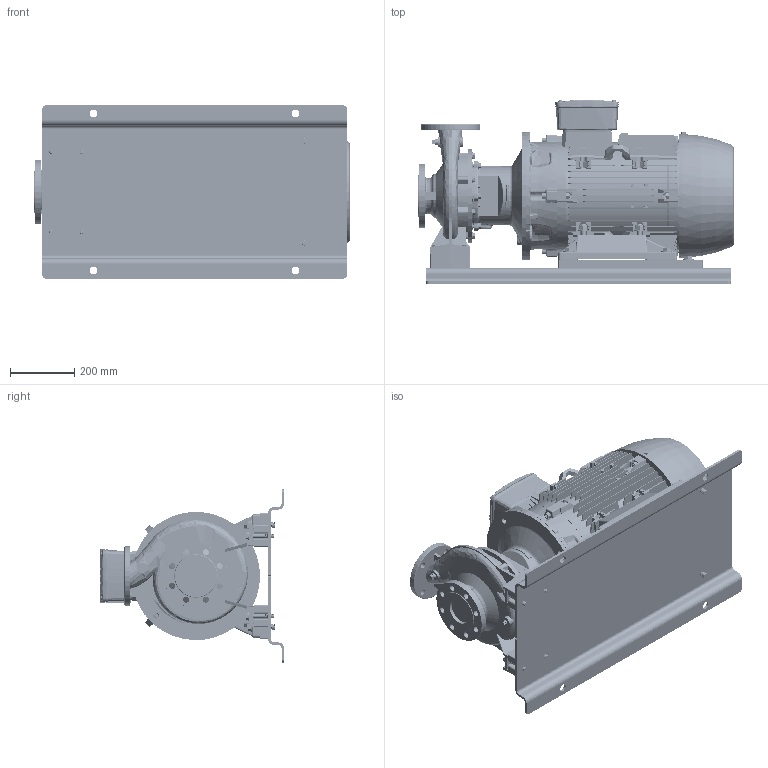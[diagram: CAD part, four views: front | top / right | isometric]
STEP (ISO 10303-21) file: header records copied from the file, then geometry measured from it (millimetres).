
FILE_DESCRIPTION (( 'STEP AP214' ), '1' );
FILE_NAME ('GSD2 65-200_30.0 & 37.0_(200ML)_W21_BP.STEP', '2024-08-01T04:03:11', ( '' ), ( '' ), 'SwSTEP 2.0', 'SolidWorks 2019', '' );
FILE_SCHEMA (( 'AUTOMOTIVE_DESIGN' ));
Length unit declared in the file: millimetre
Products named in the file (21): Parametric bolt and washer_SFT-A319B; GSD2  65-200_30.0 & 37.0_(200ML)_W21_BP; 80x25 - CGSDA-5271; N6S2 GSDA-624 F1-1832937-00; 200M_L ALIE3_W21T_B35; CGS11-5311_2_3_4_5_CGS11-5312; Parametric bolt and washer_SFT-A359B; CGS11-5311_2_3_4_5_CGS11-5311; Parametric bolt_SFT-A359B; Parametric Flat Washer_M12; Parametric Flat Washer_M16; 65-200-200M_L_______; Parametric bolt_SFT-A319B
Assembly tree (39 placements, depth 3):
  GSD2  65-200_30.0 & 37.0_(200ML)_W21_BP
    65-200-200M_L_______
    N6S2 GSDA-624 F1-1832937-00
    CGS11-5311_2_3_4_5_CGS11-5312  x2
    CGS11-5311_2_3_4_5_CGS11-5311  x2
    80x25 - CGSDA-5271  x2
    Parametric bolt and washer_SFT-A319B
      Parametric bolt_SFT-A319B
      Parametric Flat Washer_M12
    Parametric bolt and washer_SFT-A319B
      Parametric bolt_SFT-A319B
      Parametric Flat Washer_M12
    Parametric bolt and washer_SFT-A319B
      Parametric bolt_SFT-A319B
      Parametric Flat Washer_M12
    Parametric bolt and washer_SFT-A319B
      Parametric bolt_SFT-A319B
      Parametric Flat Washer_M12
    Parametric bolt and washer_SFT-A359B
      Parametric bolt_SFT-A359B
      Parametric Flat Washer_M16
    Parametric bolt and washer_SFT-A359B
      Parametric bolt_SFT-A359B
      Parametric Flat Washer_M16
    200M_L ALIE3_W21T_B35
    Parametric bolt and washer_SFT-A359B
      Parametric bolt_SFT-A359B
      Parametric Flat Washer_M16
    Parametric bolt and washer_SFT-A359B
      Parametric bolt_SFT-A359B
      Parametric Flat Washer_M16
    Parametric bolt and washer_SFT-A359B
      Parametric bolt_SFT-A359B
      Parametric Flat Washer_M16
    Parametric bolt and washer_SFT-A359B
      Parametric bolt_SFT-A359B
      Parametric Flat Washer_M16
Bounding box: 983.8 x 574.5 x 540 mm (x, y, z)
Volume: 85078190.4 mm3; surface area: 5490675.6 mm2
Topology: 50 solids, 60 shells, 7465 faces, 19291 edges, 12374 vertices
Faces by surface type: plane 4326, cylinder 1366, bspline 970, cone 585, torus 214, sphere 4
Entity records: 275538 total; most frequent: CARTESIAN_POINT 115508, ORIENTED_EDGE 35564, DIRECTION 28985, EDGE_CURVE 17782, VERTEX_POINT 11462, LINE 10925, VECTOR 10925, AXIS2_PLACEMENT_3D 9030
